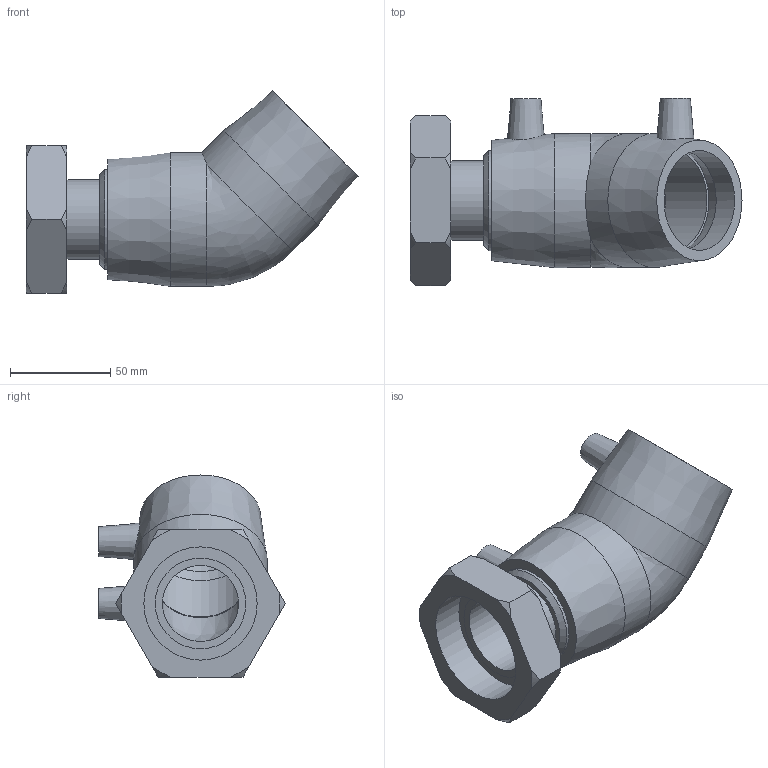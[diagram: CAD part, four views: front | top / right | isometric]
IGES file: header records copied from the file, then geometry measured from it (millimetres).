
Global section: file name: 494604050020.ipt; native system: Autodesk Inventor 2015; preprocessor: unknown; author: KIM; date: 20171106.094155; units: millimetre
Bounding box: 166 x 93.49 x 101.06 mm (x, y, z)
Volume: 280745 mm3; surface area: 71200.2 mm2
Topology: 1 solids, 2 shells, 60 faces, 147 edges, 100 vertices
Faces by surface type: plane 23, cone 17, revolution 11, cylinder 8, bspline 1
Full cylindrical faces by diameter (mm): 4 x2, 39.659 x1, 45.325 x1, 50 x2, 67 x2
